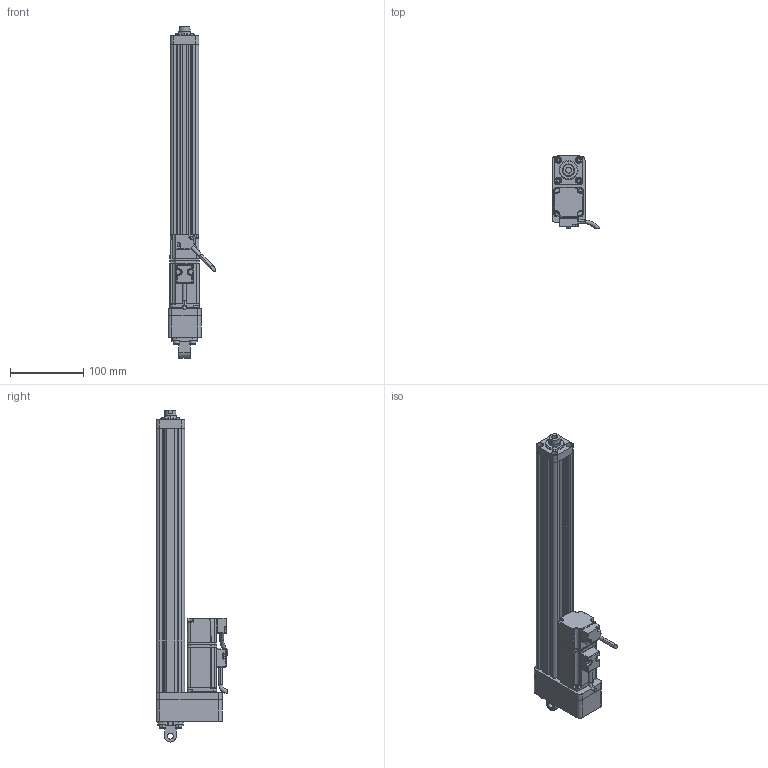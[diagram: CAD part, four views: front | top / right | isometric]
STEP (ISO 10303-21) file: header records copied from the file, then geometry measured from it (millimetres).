
FILE_DESCRIPTION (( 'STEP AP214' ), '1' );
FILE_NAME ('039-S300-D02-B-M5-C2-2.STEP', '2021-03-02T05:03:32', ( '' ), ( '' ), 'SwSTEP 2.0', 'SolidWorks 2018', '' );
FILE_SCHEMA (( 'AUTOMOTIVE_DESIGN' ));
Length unit declared in the file: millimetre
Products named in the file (8): CMC039-LJB; CMC039-GT; 039-S300-D02-B-M5-C2-2; F-ACE20CA_ACE_; CMC039-HXT; CMC039-DT; ECMA-CX0401ES-40框號系列機種-100W低慣量系列; CMC039-FL
Assembly tree (7 placements, depth 2):
  039-S300-D02-B-M5-C2-2
    CMC039-GT
    CMC039-LJB
    CMC039-FL
    CMC039-DT
    ECMA-CX0401ES-40框號系列機種-100W低慣量系列
    CMC039-HXT
    F-ACE20CA_ACE_
Bounding box: 65.33 x 97.89 x 453 mm (x, y, z)
Volume: 584716.1 mm3; surface area: 197361.8 mm2
Topology: 7 solids, 15 shells, 762 faces, 1992 edges, 1249 vertices
Faces by surface type: cylinder 321, plane 302, bspline 92, cone 47
Entity records: 29754 total; most frequent: CARTESIAN_POINT 11639, ORIENTED_EDGE 3918, DIRECTION 3319, EDGE_CURVE 1959, VERTEX_POINT 1249, AXIS2_PLACEMENT_3D 1176, LINE 967, VECTOR 967
